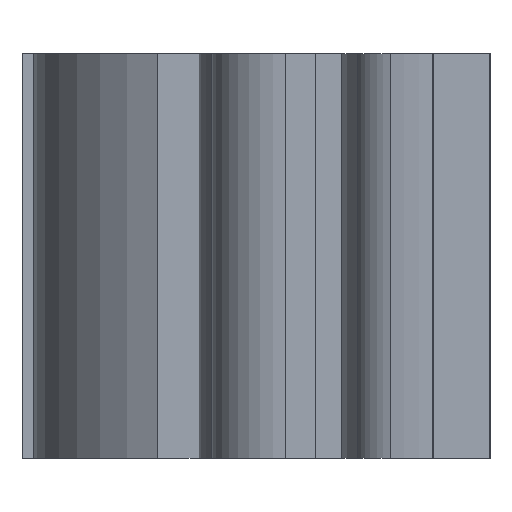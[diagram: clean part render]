
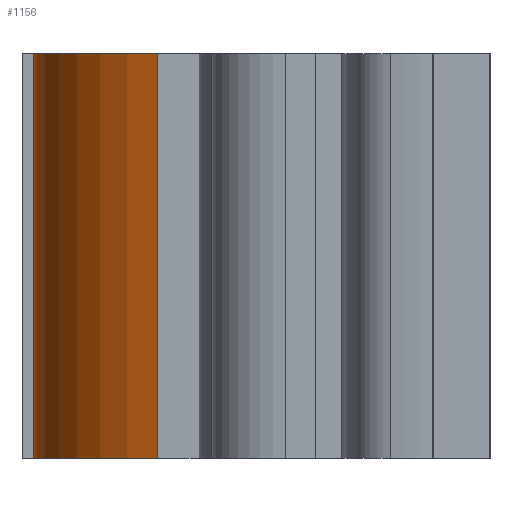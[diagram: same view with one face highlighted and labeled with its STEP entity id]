
A CAD part, left-side view. The second image highlights one B-rep face of the part: STEP entity #1156.
In plain terms, the highlighted cylindrical face has radius 12.845 mm (diameter 25.689 mm), a partial arc.
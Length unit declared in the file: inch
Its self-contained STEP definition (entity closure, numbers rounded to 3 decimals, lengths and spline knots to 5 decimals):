
#11 = VERTEX_POINT ( 'NONE', #627 ) ;
#13 = EDGE_CURVE ( 'NONE', #11, #218, #123, .T. ) ;
#26 = EDGE_CURVE ( 'NONE', #508, #1157, #355, .T. ) ;
#60 = EDGE_CURVE ( 'NONE', #1157, #218, #351, .T. ) ;
#65 = CARTESIAN_POINT ( 'NONE',  ( 0.60993, 9.81424, -1. ) ) ;
#85 = ORIENTED_EDGE ( 'NONE', *, *, #26, .T. ) ;
#118 = CARTESIAN_POINT ( 'NONE',  ( 0.14585, 10.01515, 0. ) ) ;
#121 = EDGE_LOOP ( 'NONE', ( #842, #548, #85, #1029 ) ) ;
#123 = CIRCLE ( 'NONE', #283, 0.5057 ) ;
#133 = FACE_OUTER_BOUND ( 'NONE', #121, .T. ) ;
#147 = DIRECTION ( 'NONE',  ( 0., 0., 1. ) ) ;
#161 = DIRECTION ( 'NONE',  ( 1., 0., 0. ) ) ;
#218 = VERTEX_POINT ( 'NONE', #118 ) ;
#221 = CARTESIAN_POINT ( 'NONE',  ( 1.03661, 10.08568, -1. ) ) ;
#262 = DIRECTION ( 'NONE',  ( 0., 0., 1. ) ) ;
#283 = AXIS2_PLACEMENT_3D ( 'NONE', #1161, #262, #786 ) ;
#302 = VECTOR ( 'NONE', #1146, 39.37008 ) ;
#313 = LINE ( 'NONE', #221, #625 ) ;
#351 = LINE ( 'NONE', #973, #302 ) ;
#355 = CIRCLE ( 'NONE', #815, 0.5057 ) ;
#443 = AXIS2_PLACEMENT_3D ( 'NONE', #65, #964, #1159 ) ;
#508 = VERTEX_POINT ( 'NONE', #989 ) ;
#548 = ORIENTED_EDGE ( 'NONE', *, *, #1121, .F. ) ;
#602 = CARTESIAN_POINT ( 'NONE',  ( 0.14585, 10.01515, -1. ) ) ;
#625 = VECTOR ( 'NONE', #881, 39.37008 ) ;
#627 = CARTESIAN_POINT ( 'NONE',  ( 1.03661, 10.08568, 0. ) ) ;
#786 = DIRECTION ( 'NONE',  ( 1., 0., 0. ) ) ;
#815 = AXIS2_PLACEMENT_3D ( 'NONE', #883, #147, #161 ) ;
#842 = ORIENTED_EDGE ( 'NONE', *, *, #13, .F. ) ;
#881 = DIRECTION ( 'NONE',  ( 0., 0., 1. ) ) ;
#883 = CARTESIAN_POINT ( 'NONE',  ( 0.60993, 9.81424, -1. ) ) ;
#964 = DIRECTION ( 'NONE',  ( 0., 0., 1. ) ) ;
#973 = CARTESIAN_POINT ( 'NONE',  ( 0.14585, 10.01515, -1. ) ) ;
#989 = CARTESIAN_POINT ( 'NONE',  ( 1.03661, 10.08568, -1. ) ) ;
#1029 = ORIENTED_EDGE ( 'NONE', *, *, #60, .T. ) ;
#1055 = CYLINDRICAL_SURFACE ( 'NONE', #443, 0.5057 ) ;
#1121 = EDGE_CURVE ( 'NONE', #508, #11, #313, .T. ) ;
#1146 = DIRECTION ( 'NONE',  ( 0., 0., 1. ) ) ;
#1156 = ADVANCED_FACE ( 'NONE', ( #133 ), #1055, .T. ) ;
#1157 = VERTEX_POINT ( 'NONE', #602 ) ;
#1159 = DIRECTION ( 'NONE',  ( 1., 0., 0. ) ) ;
#1161 = CARTESIAN_POINT ( 'NONE',  ( 0.60993, 9.81424, 0. ) ) ;
